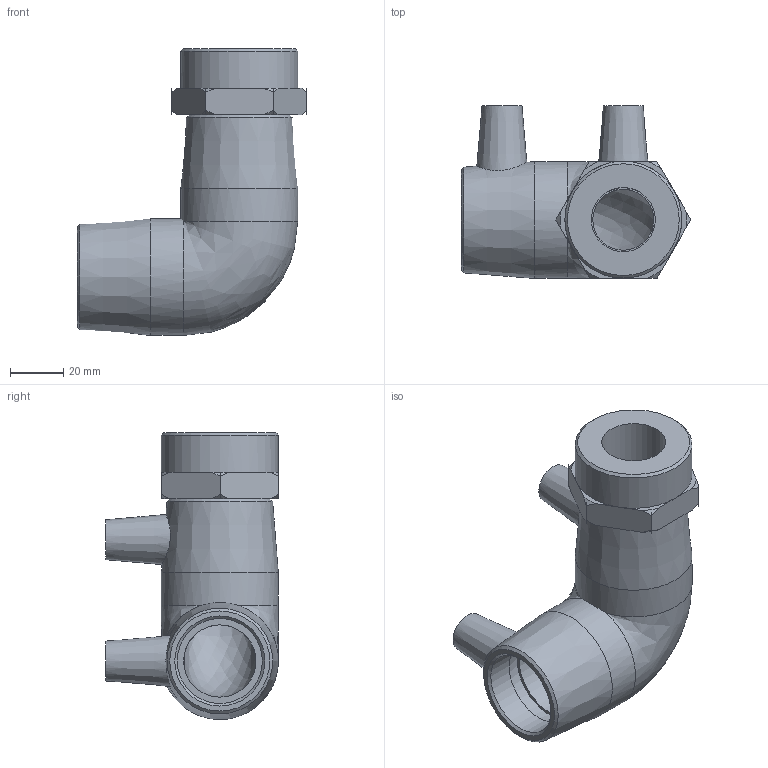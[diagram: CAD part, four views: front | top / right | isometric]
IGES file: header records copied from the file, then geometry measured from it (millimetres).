
Global section: file name: 493504032007.ipt; native system: Autodesk Inventor 2015; preprocessor: unknown; author: KIM; date: 20200202.123448; units: millimetre
Bounding box: 86.4 x 65.06 x 108 mm (x, y, z)
Volume: 133369.1 mm3; surface area: 38312.1 mm2
Topology: 2 solids, 2 shells, 76 faces, 215 edges, 150 vertices
Faces by surface type: plane 27, revolution 22, cone 19, cylinder 7, bspline 1
Full cylindrical faces by diameter (mm): 4 x2, 32 x2, 44 x3
